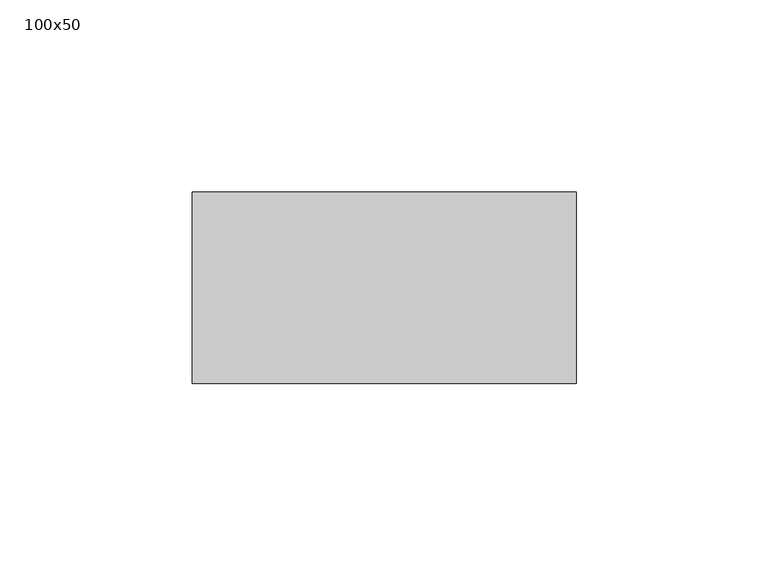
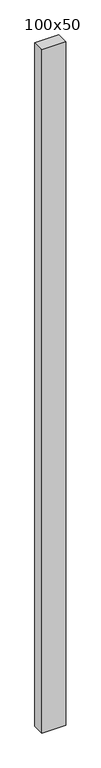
"""IFC4 building model written with IfcOpenShell, lengths in millimetres: column geometry, Bois - Bois de construction de dimensions courantes : 100x50."""

from ifc_helpers import new_model, si_unit, origin, origin_with_axes, place, context, project, spatial, polyline, outline, extrude, source, transform, mapped, element, save


def column_100x50_49ea09b9(model_context):
    return source(origin(), model_context, "Body", "SweptSolid", [
        extrude(outline(polyline([(50.0, 25.0), (50.0, -25.0), (-50.0, -25.0), (-50.0, 25.0), (50.0, 25.0)])), origin_with_axes(), (0.0, 0.0, 1.0), 3000.0),
    ])


if __name__ == "__main__":
    model = new_model("IFC4")
    model_context = context("Model", 3, world=origin())
    ifc_project = project(units=[si_unit("LENGTHUNIT", "METRE", prefix="MILLI")], contexts=[model_context])
    site = spatial("IfcSite", under=ifc_project)
    building = spatial("IfcBuilding", under=site)
    placement = place(None, origin())
    column_100x50_shape = column_100x50_49ea09b9(model_context)
    element("IfcColumn", 1, ObjectType="Bois - Bois de construction de dimensions courantes : 100x50", at=placement, inside=building, context=model_context, shape_type="MappedRepresentation", body=[
        mapped(column_100x50_shape, transform((0.0, 0.0, 0.0), x_axis=(1.0, 0.0, 0.0), y_axis=(0.0, 1.0, 0.0), z_axis=(0.0, 0.0, 1.0))),
    ])
    save(model, "model.ifc")
